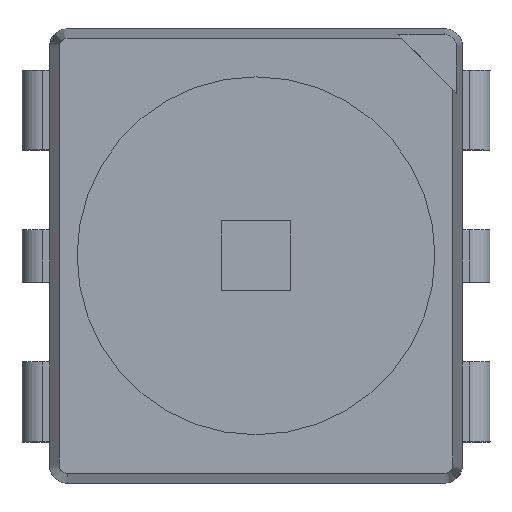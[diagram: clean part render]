
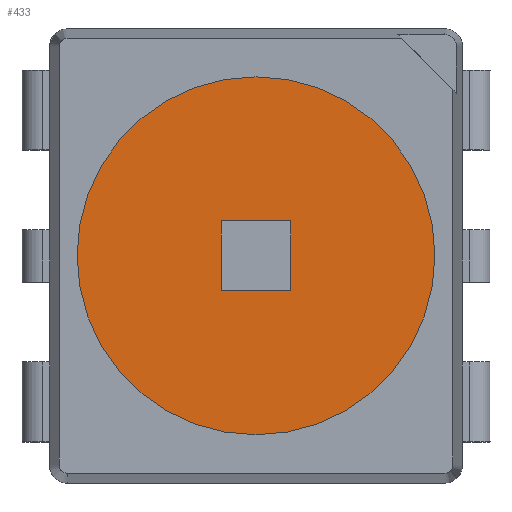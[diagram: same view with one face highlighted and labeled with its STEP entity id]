
A CAD part, top view. The second image highlights one B-rep face of the part: STEP entity #433.
In plain terms, the highlighted planar face has unit normal (0, 0, 1).
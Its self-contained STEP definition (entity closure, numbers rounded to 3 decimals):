
#136 = AXIS2_PLACEMENT_3D ( 'NONE', #4597, #538, #5390 ) ;
#152 = ORIENTED_EDGE ( 'NONE', *, *, #4388, .F. ) ;
#222 = VERTEX_POINT ( 'NONE', #1723 ) ;
#379 = LINE ( 'NONE', #2674, #3484 ) ;
#433 = ADVANCED_FACE ( 'NONE', ( #904, #1875 ), #5487, .T. ) ;
#538 = DIRECTION ( 'NONE',  ( 0., 0., 1. ) ) ;
#707 = CARTESIAN_POINT ( 'NONE',  ( 0., 0., 0.8 ) ) ;
#761 = LINE ( 'NONE', #2006, #3258 ) ;
#817 = VECTOR ( 'NONE', #5243, 1000. ) ;
#866 = LINE ( 'NONE', #1630, #3301 ) ;
#904 = FACE_BOUND ( 'NONE', #2228, .T. ) ;
#1084 = LINE ( 'NONE', #3432, #817 ) ;
#1144 = DIRECTION ( 'NONE',  ( 0., 1., 0. ) ) ;
#1303 = CARTESIAN_POINT ( 'NONE',  ( -0.254, 0.254, 0.8 ) ) ;
#1306 = EDGE_CURVE ( 'NONE', #2373, #2090, #3324, .T. ) ;
#1327 = ORIENTED_EDGE ( 'NONE', *, *, #3830, .F. ) ;
#1420 = CARTESIAN_POINT ( 'NONE',  ( -0.254, -0.254, 0.8 ) ) ;
#1448 = AXIS2_PLACEMENT_3D ( 'NONE', #1878, #2303, #4121 ) ;
#1593 = EDGE_CURVE ( 'NONE', #5749, #222, #379, .T. ) ;
#1630 = CARTESIAN_POINT ( 'NONE',  ( -0.254, 0.254, 0.8 ) ) ;
#1723 = CARTESIAN_POINT ( 'NONE',  ( 0.254, -0.254, 0.8 ) ) ;
#1875 = FACE_OUTER_BOUND ( 'NONE', #2630, .T. ) ;
#1878 = CARTESIAN_POINT ( 'NONE',  ( 0., 0., 0.8 ) ) ;
#2006 = CARTESIAN_POINT ( 'NONE',  ( 0.254, 0.254, 0.8 ) ) ;
#2090 = VERTEX_POINT ( 'NONE', #2902 ) ;
#2114 = VERTEX_POINT ( 'NONE', #4963 ) ;
#2228 = EDGE_LOOP ( 'NONE', ( #2460, #152, #1327, #3396 ) ) ;
#2303 = DIRECTION ( 'NONE',  ( 0., 0., 1. ) ) ;
#2373 = VERTEX_POINT ( 'NONE', #4979 ) ;
#2460 = ORIENTED_EDGE ( 'NONE', *, *, #1593, .F. ) ;
#2469 = DIRECTION ( 'NONE',  ( 0., 0., 1. ) ) ;
#2630 = EDGE_LOOP ( 'NONE', ( #3043, #2725 ) ) ;
#2674 = CARTESIAN_POINT ( 'NONE',  ( -0.254, -0.254, 0.8 ) ) ;
#2725 = ORIENTED_EDGE ( 'NONE', *, *, #5210, .T. ) ;
#2902 = CARTESIAN_POINT ( 'NONE',  ( -1.3, 0., 0.8 ) ) ;
#3043 = ORIENTED_EDGE ( 'NONE', *, *, #1306, .T. ) ;
#3258 = VECTOR ( 'NONE', #1144, 1000. ) ;
#3301 = VECTOR ( 'NONE', #5763, 1000. ) ;
#3324 = CIRCLE ( 'NONE', #1448, 1.3 ) ;
#3356 = AXIS2_PLACEMENT_3D ( 'NONE', #707, #2469, #4324 ) ;
#3396 = ORIENTED_EDGE ( 'NONE', *, *, #3806, .F. ) ;
#3432 = CARTESIAN_POINT ( 'NONE',  ( -0.254, 0.254, 0.8 ) ) ;
#3484 = VECTOR ( 'NONE', #4977, 1000. ) ;
#3495 = VERTEX_POINT ( 'NONE', #1303 ) ;
#3806 = EDGE_CURVE ( 'NONE', #222, #2114, #761, .T. ) ;
#3830 = EDGE_CURVE ( 'NONE', #2114, #3495, #1084, .T. ) ;
#4121 = DIRECTION ( 'NONE',  ( 1., 0., 0. ) ) ;
#4324 = DIRECTION ( 'NONE',  ( 1., 0., 0. ) ) ;
#4388 = EDGE_CURVE ( 'NONE', #3495, #5749, #866, .T. ) ;
#4597 = CARTESIAN_POINT ( 'NONE',  ( 0., 0., 0.8 ) ) ;
#4963 = CARTESIAN_POINT ( 'NONE',  ( 0.254, 0.254, 0.8 ) ) ;
#4977 = DIRECTION ( 'NONE',  ( 1., 0., 0. ) ) ;
#4979 = CARTESIAN_POINT ( 'NONE',  ( 1.3, 0., 0.8 ) ) ;
#5210 = EDGE_CURVE ( 'NONE', #2090, #2373, #5445, .T. ) ;
#5243 = DIRECTION ( 'NONE',  ( -1., 0., 0. ) ) ;
#5390 = DIRECTION ( 'NONE',  ( 1., 0., 0. ) ) ;
#5445 = CIRCLE ( 'NONE', #3356, 1.3 ) ;
#5487 = PLANE ( 'NONE',  #136 ) ;
#5749 = VERTEX_POINT ( 'NONE', #1420 ) ;
#5763 = DIRECTION ( 'NONE',  ( 0., -1., 0. ) ) ;
